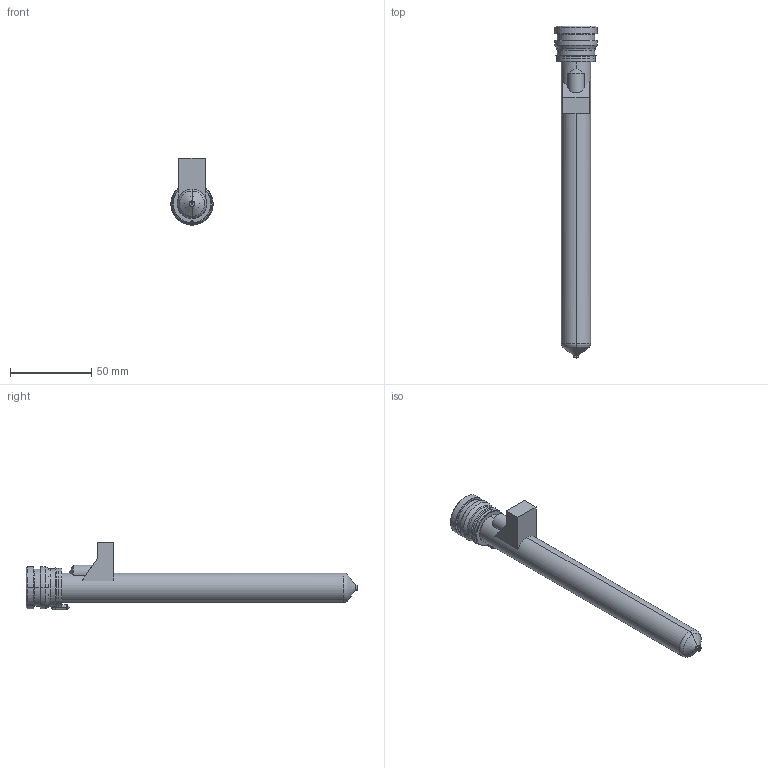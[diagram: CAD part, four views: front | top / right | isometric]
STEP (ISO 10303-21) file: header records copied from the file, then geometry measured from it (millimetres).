
FILE_DESCRIPTION((''),'2;1');
FILE_NAME('MPN-08-24-VP3-186-M','2026-02-05T13:33:31',('UPTIO'),('Thermoplay S.p.A.'),'CREO PARAMETRIC BY PTC INC, 2023494','CREO PARAMETRIC BY PTC INC, 2023494','');
FILE_SCHEMA(('CONFIG_CONTROL_DESIGN','SHAPE_APPEARANCE_LAYERS_GROUPS'));
Length unit declared in the file: millimetre
Products named in the file (1): MPN-08-24-VP3-186-M
Bounding box: 26 x 204.1 x 41.5 mm (x, y, z)
Volume: 38125.8 mm3; surface area: 51274.3 mm2
Topology: 2 solids, 3 shells, 571 faces, 1494 edges, 922 vertices
Faces by surface type: cylinder 178, plane 143, bspline 103, torus 68, cone 66, sphere 7, extrusion 6
Entity records: 30026 total; most frequent: CARTESIAN_POINT 13516, ORIENTED_EDGE 2970, DIRECTION 2631, EDGE_CURVE 1485, AXIS2_PLACEMENT_3D 1029, VERTEX_POINT 922, EDGE_LOOP 601, VECTOR 573
